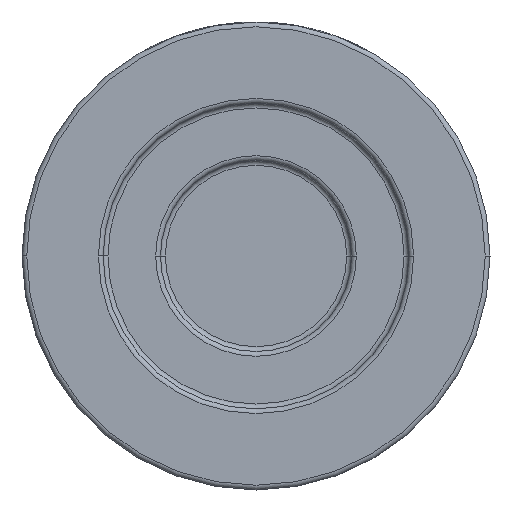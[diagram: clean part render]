
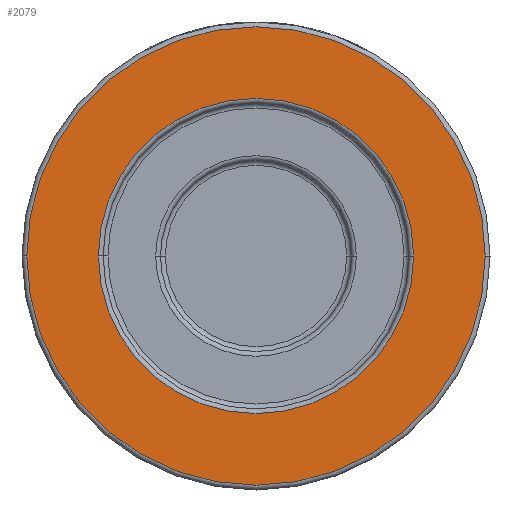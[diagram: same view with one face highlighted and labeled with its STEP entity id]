
A CAD part, front view. The second image highlights one B-rep face of the part: STEP entity #2079.
In plain terms, the highlighted planar face has unit normal (0, -1, 0).
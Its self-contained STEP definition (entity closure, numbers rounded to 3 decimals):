
#89 = AXIS2_PLACEMENT_3D ( 'NONE', #2109, #2081, #2499 ) ;
#148 = VERTEX_POINT ( 'NONE', #1112 ) ;
#163 = CIRCLE ( 'NONE', #4263, 48. ) ;
#226 = EDGE_CURVE ( 'NONE', #3293, #3364, #2911, .T. ) ;
#400 = CARTESIAN_POINT ( 'NONE',  ( 0., -41., 0. ) ) ;
#669 = FACE_OUTER_BOUND ( 'NONE', #4063, .T. ) ;
#693 = DIRECTION ( 'NONE',  ( 0., 1., 0. ) ) ;
#694 = DIRECTION ( 'NONE',  ( 1., 0., 0. ) ) ;
#760 = CARTESIAN_POINT ( 'NONE',  ( -48., -41., 0. ) ) ;
#778 = AXIS2_PLACEMENT_3D ( 'NONE', #1055, #3993, #694 ) ;
#876 = CARTESIAN_POINT ( 'NONE',  ( 0., -41., 0. ) ) ;
#1055 = CARTESIAN_POINT ( 'NONE',  ( 49., -41., 0. ) ) ;
#1112 = CARTESIAN_POINT ( 'NONE',  ( 33., -41., 0. ) ) ;
#1145 = DIRECTION ( 'NONE',  ( 1., 0., 0. ) ) ;
#1165 = CARTESIAN_POINT ( 'NONE',  ( 48., -41., 0. ) ) ;
#1357 = CARTESIAN_POINT ( 'NONE',  ( -33., -41., 0. ) ) ;
#1690 = VERTEX_POINT ( 'NONE', #1357 ) ;
#2079 = ADVANCED_FACE ( 'NONE', ( #4376, #669 ), #2842, .T. ) ;
#2081 = DIRECTION ( 'NONE',  ( 0., 1., 0. ) ) ;
#2109 = CARTESIAN_POINT ( 'NONE',  ( 0., -41., 0. ) ) ;
#2205 = AXIS2_PLACEMENT_3D ( 'NONE', #876, #3167, #4640 ) ;
#2225 = EDGE_CURVE ( 'NONE', #1690, #148, #2627, .T. ) ;
#2406 = DIRECTION ( 'NONE',  ( 0., -1., 0. ) ) ;
#2499 = DIRECTION ( 'NONE',  ( 1., 0., 0. ) ) ;
#2561 = EDGE_CURVE ( 'NONE', #3364, #3293, #163, .T. ) ;
#2627 = CIRCLE ( 'NONE', #3102, 33. ) ;
#2656 = EDGE_LOOP ( 'NONE', ( #4062, #3170 ) ) ;
#2749 = CARTESIAN_POINT ( 'NONE',  ( 0., -41., 0. ) ) ;
#2842 = PLANE ( 'NONE',  #778 ) ;
#2858 = EDGE_CURVE ( 'NONE', #148, #1690, #3665, .T. ) ;
#2911 = CIRCLE ( 'NONE', #2205, 48. ) ;
#3102 = AXIS2_PLACEMENT_3D ( 'NONE', #400, #693, #1145 ) ;
#3167 = DIRECTION ( 'NONE',  ( 0., -1., 0. ) ) ;
#3170 = ORIENTED_EDGE ( 'NONE', *, *, #2225, .T. ) ;
#3293 = VERTEX_POINT ( 'NONE', #1165 ) ;
#3364 = VERTEX_POINT ( 'NONE', #760 ) ;
#3665 = CIRCLE ( 'NONE', #89, 33. ) ;
#3825 = DIRECTION ( 'NONE',  ( 1., 0., 0. ) ) ;
#3931 = ORIENTED_EDGE ( 'NONE', *, *, #226, .T. ) ;
#3993 = DIRECTION ( 'NONE',  ( 0., -1., 0. ) ) ;
#4062 = ORIENTED_EDGE ( 'NONE', *, *, #2858, .T. ) ;
#4063 = EDGE_LOOP ( 'NONE', ( #3931, #4506 ) ) ;
#4263 = AXIS2_PLACEMENT_3D ( 'NONE', #2749, #2406, #3825 ) ;
#4376 = FACE_BOUND ( 'NONE', #2656, .T. ) ;
#4506 = ORIENTED_EDGE ( 'NONE', *, *, #2561, .T. ) ;
#4640 = DIRECTION ( 'NONE',  ( 1., 0., 0. ) ) ;
